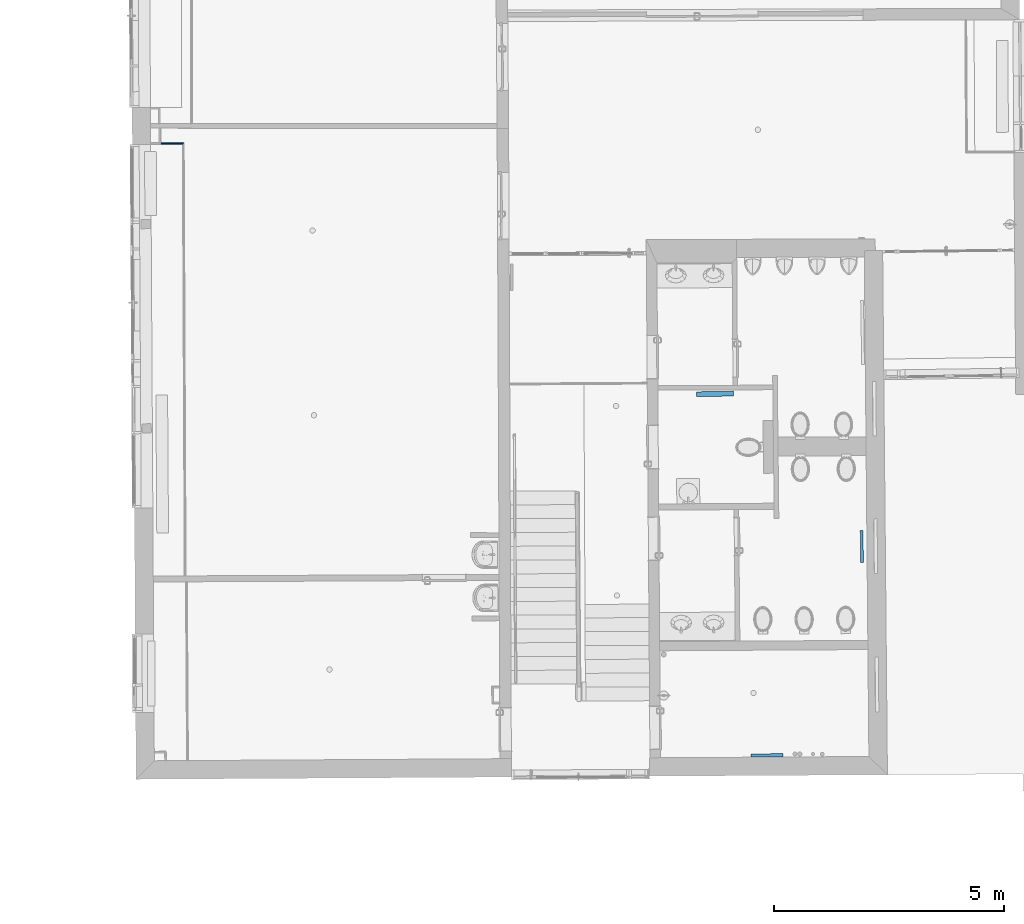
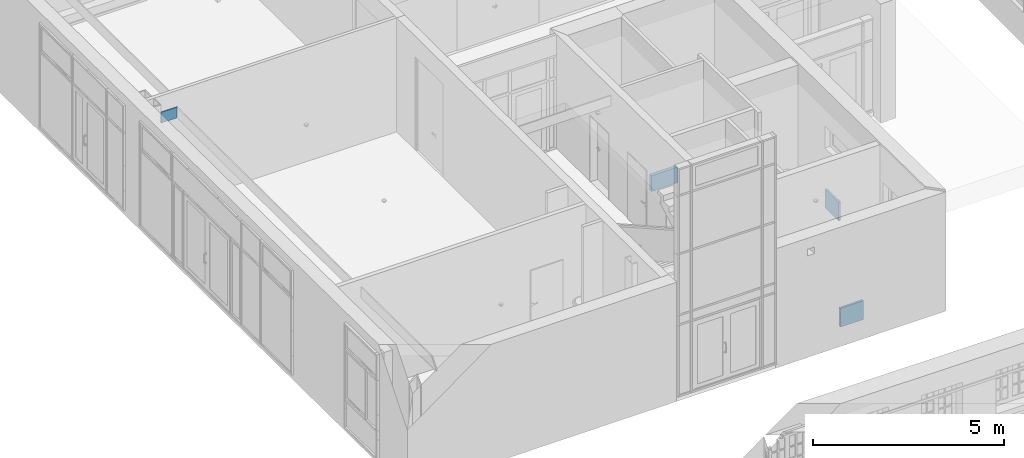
# One storey, part 59 of 196: 4 walls.
"""IFC2X3 building model written with IfcOpenShell, lengths in metres."""

from ifc_helpers import new_model, entity, si_unit, converted_unit, derived_unit, money_unit, direction, frame, origin_with_axes, place, context, subcontext, project, spatial, polyline, outline, extrude, material, layer, layer_set, layer_usage, type_object, element, save


model = new_model("IFC2X3")

# Units and contexts
model_context = context("Model", 3, precision=1e-05, world=origin_with_axes(), true_north=direction((0.0, 1.0)))
body_context = subcontext(model_context, "Body", "Model", "MODEL_VIEW")
ifc_project = project(units=[si_unit("LENGTHUNIT", "METRE"), si_unit("AREAUNIT", "SQUARE_METRE"), si_unit("VOLUMEUNIT", "CUBIC_METRE"), converted_unit("PLANEANGLEUNIT", "DEGREE", entity("IfcPlaneAngleMeasure", 0.0174532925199), si_unit("PLANEANGLEUNIT", "RADIAN"), dimensions=[0, 0, 0, 0, 0, 0, 0]), money_unit("EUR"), converted_unit("TIMEUNIT", "Year", entity("IfcTimeMeasure", 31556926.0), si_unit("TIMEUNIT", "SECOND"), dimensions=[0, 0, 1, 0, 0, 0, 0]), si_unit("MASSUNIT", "GRAM", prefix="KILO"), si_unit("THERMODYNAMICTEMPERATUREUNIT", "DEGREE_CELSIUS"), si_unit("LUMINOUSINTENSITYUNIT", "LUMEN"), si_unit("ENERGYUNIT", "JOULE", prefix="MEGA"), derived_unit("THERMALCONDUCTANCEUNIT", [(si_unit("POWERUNIT", "WATT"), 1), (si_unit("LENGTHUNIT", "METRE"), -1), (si_unit("THERMODYNAMICTEMPERATUREUNIT", "KELVIN"), -1)]), derived_unit("SPECIFICHEATCAPACITYUNIT", [(si_unit("ENERGYUNIT", "JOULE"), 1), (si_unit("MASSUNIT", "GRAM", prefix="KILO"), -1), (si_unit("THERMODYNAMICTEMPERATUREUNIT", "KELVIN"), -1)]), derived_unit("MASSDENSITYUNIT", [(si_unit("MASSUNIT", "GRAM", prefix="KILO"), 1), (si_unit("VOLUMEUNIT", "CUBIC_METRE"), -1)])], contexts=[model_context])

# Site, building, storey
site_placement = place(None, origin_with_axes())
site = spatial("IfcSite", under=ifc_project, at=site_placement, Name="Gelände", CompositionType="ELEMENT")
building_placement = place(site_placement, origin_with_axes())
building = spatial("IfcBuilding", under=site, at=building_placement, Name="Gebäude", CompositionType="ELEMENT")
storey_placement = place(building_placement, frame((0.0, 0.0, -3.0), z_axis=(0.0, 0.0, 1.0), x_axis=(1.0, 0.0, 0.0)))
storey = spatial("IfcBuildingStorey", under=building, at=storey_placement, Name="KELLERGESCHOSS", CompositionType="ELEMENT", Elevation=-3.0)

# Walls
ifc_material_1 = material(Name="43_Gipskarton")
ifc_layer_1 = layer(ifc_material_1, 0.03, ventilated="UNKNOWN")
ifc_layer_set_1 = layer_set([ifc_layer_1], Name="43_Gipskarton 0.03")
ifc_layer_usage_1 = layer_usage(ifc_layer_set_1, "AXIS2", "NEGATIVE", 0.0)
wall_type_1 = type_object("IfcWallType", Name="43_Gipskarton 30", PredefinedType="ELEMENTEDWALL")
wall_1_placement = place(storey_placement, frame((-33.8033999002, 44.6467562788, 3.47), z_axis=(0.0, 0.0, 1.0), x_axis=(-0.999984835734, -0.00550711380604, 0.0)))
element("IfcWallStandardCase", 1, at=wall_1_placement, inside=storey, type_object=wall_type_1, material=ifc_layer_usage_1, Name="Wand-040", ObjectType="ELEMENTEDWALL", context=body_context, shape_type="SweptSolid", body=[
    extrude(outline(polyline([(-0.0300316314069, -0.03), (0.47764367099, -0.03), (0.477700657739, 0.0), (0.0, 0.0), (-0.0300316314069, -0.03)])), origin_with_axes(), (0.0, 0.0, 1.0), 0.34),
])
ifc_material_2 = material(Name="01_ALLGEMEIN - BAUTEIL")
ifc_layer_2 = layer(ifc_material_2, 0.105, ventilated="UNKNOWN")
ifc_layer_set_2 = layer_set([ifc_layer_2], Name="01_ALLGEMEIN - BAUTEIL 0.105")
ifc_layer_usage_2 = layer_usage(ifc_layer_set_2, "AXIS2", "NEGATIVE", 0.105)
wall_type_2 = type_object("IfcWallType", Name="01_ALLGEMEIN - BAUTEIL 105", PredefinedType="ELEMENTEDWALL")
wall_2_placement = place(storey_placement, frame((-22.6318503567, 39.1591851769, 0.528607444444), z_axis=(0.0, 0.0, 1.0), x_axis=(0.999871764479, 0.0160141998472, 0.0)))
element("IfcWallStandardCase", 2, at=wall_2_placement, inside=storey, type_object=wall_type_2, material=ifc_layer_usage_2, Name="Wand-030", ObjectType="ELEMENTEDWALL", context=body_context, shape_type="SweptSolid", body=[
    extrude(outline(polyline([(0.0, 0.0), (0.802741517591, 0.0), (0.802741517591, 0.105), (0.0, 0.105), (0.0, 0.0)])), origin_with_axes(), (0.0, 0.0, 1.0), 0.5),
])
ifc_layer_3 = layer(ifc_material_2, 0.06, ventilated="UNKNOWN")
ifc_layer_set_3 = layer_set([ifc_layer_3], Name="01_ALLGEMEIN - BAUTEIL 0.06")
ifc_layer_usage_3 = layer_usage(ifc_layer_set_3, "AXIS2", "NEGATIVE", 0.06)
wall_type_3 = type_object("IfcWallType", Name="01_ALLGEMEIN - BAUTEIL 60", PredefinedType="ELEMENTEDWALL")
wall_3_placement = place(storey_placement, frame((-19.0710659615, 36.2496386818, 0.528607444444), z_axis=(0.0, 0.0, 1.0), x_axis=(0.0140178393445, -0.999901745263, 0.0)))
element("IfcWallStandardCase", 3, at=wall_3_placement, inside=storey, type_object=wall_type_3, material=ifc_layer_usage_3, Name="Wand-030", ObjectType="ELEMENTEDWALL", context=body_context, shape_type="SweptSolid", body=[
    extrude(outline(polyline([(0.0, 0.0), (0.698556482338, 0.0), (0.698556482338, 0.06), (0.0, 0.06), (0.0, 0.0)])), origin_with_axes(), (0.0, 0.0, 1.0), 0.601073),
])
ifc_layer_4 = layer(ifc_material_2, 0.07, ventilated="UNKNOWN")
ifc_layer_set_4 = layer_set([ifc_layer_4], Name="01_ALLGEMEIN - BAUTEIL 0.07")
ifc_layer_usage_4 = layer_usage(ifc_layer_set_4, "AXIS2", "NEGATIVE", 0.0)
wall_type_4 = type_object("IfcWallType", Name="01_ALLGEMEIN - BAUTEIL 70", PredefinedType="ELEMENTEDWALL")
wall_4_placement = place(storey_placement, frame((-21.4497756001, 31.3930267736, 0.535983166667), z_axis=(0.0, 0.0, 1.0), x_axis=(0.999972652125, 0.00739560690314, 0.0)))
element("IfcWallStandardCase", 4, at=wall_4_placement, inside=storey, type_object=wall_type_4, material=ifc_layer_usage_4, Name="Wand-030", ObjectType="ELEMENTEDWALL", context=body_context, shape_type="SweptSolid", body=[
    extrude(outline(polyline([(0.0, -0.07), (0.696953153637, -0.07), (0.696953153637, 0.0), (0.0, 0.0), (0.0, -0.07)])), origin_with_axes(), (0.0, 0.0, 1.0), 0.599236),
])

save(model, "model.ifc")
